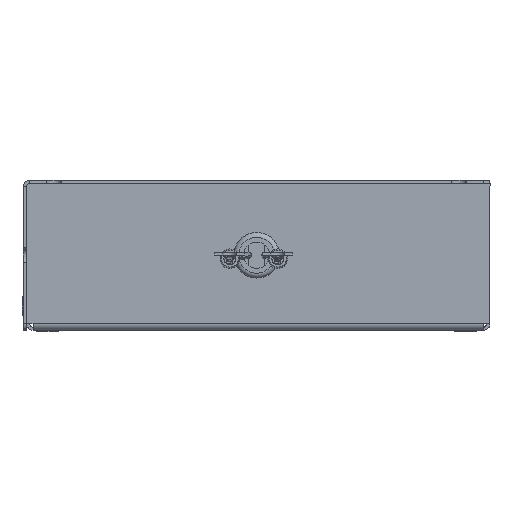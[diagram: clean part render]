
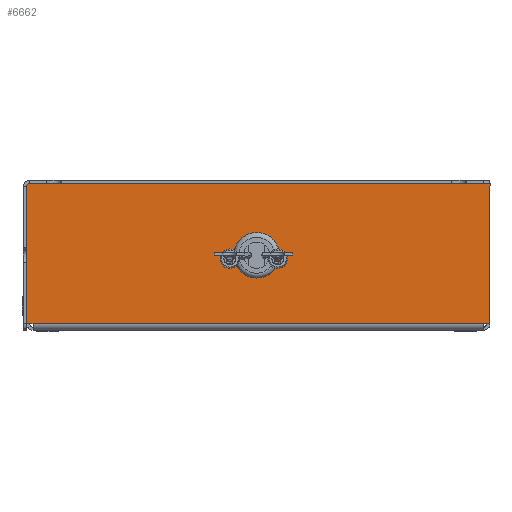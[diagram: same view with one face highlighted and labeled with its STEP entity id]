
A CAD part, left-side view. The second image highlights one B-rep face of the part: STEP entity #6662.
In plain terms, the highlighted planar face has unit normal (-1, 0, 0) as drawn and (0, 0, -1) by its records, which use the part's own axes.
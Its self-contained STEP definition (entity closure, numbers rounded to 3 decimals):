
#820 = FACE_BOUND ( 'NONE', #21862, .T. ) ;
#910 = CARTESIAN_POINT ( 'NONE',  ( -1., 44., -130. ) ) ;
#1034 = DIRECTION ( 'NONE',  ( 0., 1., 0. ) ) ;
#1407 = VERTEX_POINT ( 'NONE', #18346 ) ;
#1680 = VERTEX_POINT ( 'NONE', #16229 ) ;
#1947 = LINE ( 'NONE', #10597, #2530 ) ;
#2075 = EDGE_CURVE ( 'NONE', #13971, #6246, #14663, .T. ) ;
#2251 = DIRECTION ( 'NONE',  ( 0., 0., 1. ) ) ;
#2530 = VECTOR ( 'NONE', #20931, 1000. ) ;
#3061 = EDGE_CURVE ( 'NONE', #5972, #1680, #8497, .T. ) ;
#3940 = EDGE_CURVE ( 'NONE', #1407, #13971, #9708, .T. ) ;
#4853 = CARTESIAN_POINT ( 'NONE',  ( -70., 2., -130. ) ) ;
#5185 = LINE ( 'NONE', #4853, #10354 ) ;
#5478 = ORIENTED_EDGE ( 'NONE', *, *, #8966, .F. ) ;
#5709 = CIRCLE ( 'NONE', #15672, 1. ) ;
#5955 = CARTESIAN_POINT ( 'NONE',  ( -530.419, 45., -130. ) ) ;
#5972 = VERTEX_POINT ( 'NONE', #11626 ) ;
#6065 = CARTESIAN_POINT ( 'NONE',  ( -70., 2., -130. ) ) ;
#6183 = LINE ( 'NONE', #6065, #10725 ) ;
#6246 = VERTEX_POINT ( 'NONE', #9154 ) ;
#6662 = ADVANCED_FACE ( 'NONE', ( #820, #17364 ), #14479, .F. ) ;
#6791 = VECTOR ( 'NONE', #9534, 1000. ) ;
#7330 = CARTESIAN_POINT ( 'NONE',  ( -142., 45., -130. ) ) ;
#7490 = EDGE_CURVE ( 'NONE', #1680, #5972, #19914, .T. ) ;
#7578 = CARTESIAN_POINT ( 'NONE',  ( -70., 22.369, -130. ) ) ;
#7597 = CARTESIAN_POINT ( 'NONE',  ( -2., 2., -130. ) ) ;
#7610 = CARTESIAN_POINT ( 'NONE',  ( -0.293, 44.707, -130. ) ) ;
#7831 = AXIS2_PLACEMENT_3D ( 'NONE', #7578, #19466, #14371 ) ;
#7872 = AXIS2_PLACEMENT_3D ( 'NONE', #17611, #14078, #8833 ) ;
#8163 = EDGE_CURVE ( 'NONE', #9116, #6246, #5709, .T. ) ;
#8497 = CIRCLE ( 'NONE', #20928, 5.125 ) ;
#8652 = DIRECTION ( 'NONE',  ( -1., 0., 0. ) ) ;
#8833 = DIRECTION ( 'NONE',  ( 0.707, 0.707, 0. ) ) ;
#8931 = CIRCLE ( 'NONE', #7872, 1. ) ;
#8966 = EDGE_CURVE ( 'NONE', #9205, #9116, #8931, .T. ) ;
#9116 = VERTEX_POINT ( 'NONE', #7610 ) ;
#9154 = CARTESIAN_POINT ( 'NONE',  ( -1., 45., -130. ) ) ;
#9205 = VERTEX_POINT ( 'NONE', #18283 ) ;
#9534 = DIRECTION ( 'NONE',  ( -1., 0., 0. ) ) ;
#9708 = LINE ( 'NONE', #19468, #19530 ) ;
#10354 = VECTOR ( 'NONE', #8652, 1000. ) ;
#10379 = ORIENTED_EDGE ( 'NONE', *, *, #19088, .T. ) ;
#10597 = CARTESIAN_POINT ( 'NONE',  ( 0., 2., -130. ) ) ;
#10725 = VECTOR ( 'NONE', #18058, 1000. ) ;
#10836 = CARTESIAN_POINT ( 'NONE',  ( 0., 2., -130. ) ) ;
#11011 = AXIS2_PLACEMENT_3D ( 'NONE', #12525, #20661, #14096 ) ;
#11534 = ORIENTED_EDGE ( 'NONE', *, *, #16803, .T. ) ;
#11598 = VERTEX_POINT ( 'NONE', #7597 ) ;
#11626 = CARTESIAN_POINT ( 'NONE',  ( -75.625, 23., -130. ) ) ;
#12370 = ORIENTED_EDGE ( 'NONE', *, *, #16220, .F. ) ;
#12525 = CARTESIAN_POINT ( 'NONE',  ( -70.5, 23., -130. ) ) ;
#12653 = DIRECTION ( 'NONE',  ( 1., 0., 0. ) ) ;
#12662 = DIRECTION ( 'NONE',  ( 0.707, 0.707, 0. ) ) ;
#12665 = ORIENTED_EDGE ( 'NONE', *, *, #2075, .T. ) ;
#12741 = LINE ( 'NONE', #21208, #6791 ) ;
#13435 = ORIENTED_EDGE ( 'NONE', *, *, #7490, .T. ) ;
#13482 = VERTEX_POINT ( 'NONE', #10836 ) ;
#13595 = ORIENTED_EDGE ( 'NONE', *, *, #3940, .T. ) ;
#13971 = VERTEX_POINT ( 'NONE', #7330 ) ;
#14078 = DIRECTION ( 'NONE',  ( 0., 0., 1. ) ) ;
#14096 = DIRECTION ( 'NONE',  ( 1., 0., 0. ) ) ;
#14371 = DIRECTION ( 'NONE',  ( 0., -1., 0. ) ) ;
#14428 = ORIENTED_EDGE ( 'NONE', *, *, #3061, .T. ) ;
#14454 = ORIENTED_EDGE ( 'NONE', *, *, #21108, .T. ) ;
#14479 = PLANE ( 'NONE',  #7831 ) ;
#14559 = CARTESIAN_POINT ( 'NONE',  ( -70.5, 23., -130. ) ) ;
#14663 = LINE ( 'NONE', #5955, #19168 ) ;
#14903 = VERTEX_POINT ( 'NONE', #19710 ) ;
#15540 = EDGE_LOOP ( 'NONE', ( #5478, #12370, #10379, #14454, #11534, #13595, #12665, #17944 ) ) ;
#15672 = AXIS2_PLACEMENT_3D ( 'NONE', #910, #2251, #12662 ) ;
#16220 = EDGE_CURVE ( 'NONE', #13482, #9205, #1947, .T. ) ;
#16229 = CARTESIAN_POINT ( 'NONE',  ( -65.375, 23., -130. ) ) ;
#16803 = EDGE_CURVE ( 'NONE', #14903, #1407, #12741, .T. ) ;
#17364 = FACE_OUTER_BOUND ( 'NONE', #15540, .T. ) ;
#17611 = CARTESIAN_POINT ( 'NONE',  ( -1., 44., -130. ) ) ;
#17944 = ORIENTED_EDGE ( 'NONE', *, *, #8163, .F. ) ;
#18058 = DIRECTION ( 'NONE',  ( -1., 0., 0. ) ) ;
#18283 = CARTESIAN_POINT ( 'NONE',  ( 0., 44., -130. ) ) ;
#18346 = CARTESIAN_POINT ( 'NONE',  ( -142., 2., -130. ) ) ;
#19088 = EDGE_CURVE ( 'NONE', #13482, #11598, #6183, .T. ) ;
#19168 = VECTOR ( 'NONE', #21540, 1000. ) ;
#19466 = DIRECTION ( 'NONE',  ( 0., 0., 1. ) ) ;
#19468 = CARTESIAN_POINT ( 'NONE',  ( -142., 2., -130. ) ) ;
#19530 = VECTOR ( 'NONE', #1034, 1000. ) ;
#19710 = CARTESIAN_POINT ( 'NONE',  ( -140., 2., -130. ) ) ;
#19914 = CIRCLE ( 'NONE', #11011, 5.125 ) ;
#20661 = DIRECTION ( 'NONE',  ( 0., 0., 1. ) ) ;
#20928 = AXIS2_PLACEMENT_3D ( 'NONE', #14559, #21014, #12653 ) ;
#20931 = DIRECTION ( 'NONE',  ( 0., 1., 0. ) ) ;
#21014 = DIRECTION ( 'NONE',  ( 0., 0., 1. ) ) ;
#21108 = EDGE_CURVE ( 'NONE', #11598, #14903, #5185, .T. ) ;
#21208 = CARTESIAN_POINT ( 'NONE',  ( -500.919, 2., -130. ) ) ;
#21540 = DIRECTION ( 'NONE',  ( 1., 0., 0. ) ) ;
#21862 = EDGE_LOOP ( 'NONE', ( #13435, #14428 ) ) ;
